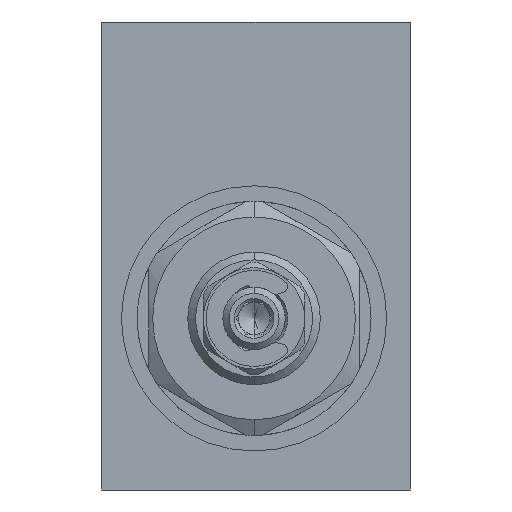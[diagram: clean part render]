
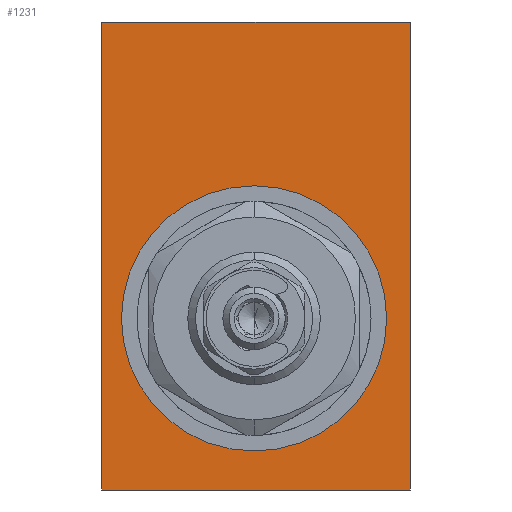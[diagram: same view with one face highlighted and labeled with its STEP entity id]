
A CAD part, left-side view. The second image highlights one B-rep face of the part: STEP entity #1231.
In plain terms, the highlighted planar face has unit normal (-1, 0, 0).
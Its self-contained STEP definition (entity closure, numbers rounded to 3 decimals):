
#294 = CIRCLE ( 'NONE', #7769, 17. ) ;
#1231 = ADVANCED_FACE ( 'NONE', ( #13580, #3365 ), #3278, .T. ) ;
#1792 = ORIENTED_EDGE ( 'NONE', *, *, #5975, .F. ) ;
#2838 = ORIENTED_EDGE ( 'NONE', *, *, #5935, .T. ) ;
#2983 = DIRECTION ( 'NONE',  ( 0., 0., 1. ) ) ;
#3007 = DIRECTION ( 'NONE',  ( -1., 0., 0. ) ) ;
#3041 = CARTESIAN_POINT ( 'NONE',  ( 0., 19.75, -30. ) ) ;
#3278 = PLANE ( 'NONE',  #5806 ) ;
#3362 = ORIENTED_EDGE ( 'NONE', *, *, #5952, .F. ) ;
#3365 = FACE_BOUND ( 'NONE', #10840, .T. ) ;
#3740 = ORIENTED_EDGE ( 'NONE', *, *, #5947, .T. ) ;
#3926 = CARTESIAN_POINT ( 'NONE',  ( 0., 19.75, -30. ) ) ;
#4625 = ORIENTED_EDGE ( 'NONE', *, *, #5978, .F. ) ;
#4785 = EDGE_CURVE ( 'NONE', #8907, #10809, #294, .T. ) ;
#4990 = ORIENTED_EDGE ( 'NONE', *, *, #4785, .F. ) ;
#5806 = AXIS2_PLACEMENT_3D ( 'NONE', #3041, #3007, #2983 ) ;
#5935 = EDGE_CURVE ( 'NONE', #7475, #7966, #9571, .T. ) ;
#5947 = EDGE_CURVE ( 'NONE', #7966, #7674, #9555, .T. ) ;
#5952 = EDGE_CURVE ( 'NONE', #12941, #7674, #10248, .T. ) ;
#5965 = CARTESIAN_POINT ( 'NONE',  ( 0., 0.25, -25. ) ) ;
#5975 = EDGE_CURVE ( 'NONE', #7475, #12941, #9383, .T. ) ;
#5978 = EDGE_CURVE ( 'NONE', #10809, #8907, #8454, .T. ) ;
#7052 = CARTESIAN_POINT ( 'NONE',  ( 0., -19.75, 30. ) ) ;
#7169 = VECTOR ( 'NONE', #9210, 1000. ) ;
#7475 = VERTEX_POINT ( 'NONE', #11911 ) ;
#7674 = VERTEX_POINT ( 'NONE', #10399 ) ;
#7769 = AXIS2_PLACEMENT_3D ( 'NONE', #8739, #8723, #8590 ) ;
#7966 = VERTEX_POINT ( 'NONE', #7052 ) ;
#8132 = EDGE_LOOP ( 'NONE', ( #2838, #3740, #3362, #1792 ) ) ;
#8454 = CIRCLE ( 'NONE', #10478, 17. ) ;
#8468 = VECTOR ( 'NONE', #9462, 1000. ) ;
#8590 = DIRECTION ( 'NONE',  ( 0., 0., 1. ) ) ;
#8723 = DIRECTION ( 'NONE',  ( -1., 0., 0. ) ) ;
#8739 = CARTESIAN_POINT ( 'NONE',  ( 0., 0.25, -8. ) ) ;
#8854 = VECTOR ( 'NONE', #9450, 1000. ) ;
#8907 = VERTEX_POINT ( 'NONE', #5965 ) ;
#9094 = DIRECTION ( 'NONE',  ( 0., 0., 1. ) ) ;
#9110 = DIRECTION ( 'NONE',  ( -1., 0., 0. ) ) ;
#9112 = CARTESIAN_POINT ( 'NONE',  ( 0., 0.25, -8. ) ) ;
#9210 = DIRECTION ( 'NONE',  ( 0., 1., 0. ) ) ;
#9283 = CARTESIAN_POINT ( 'NONE',  ( 0., -19.25, -30. ) ) ;
#9339 = DIRECTION ( 'NONE',  ( 0., 0., 1. ) ) ;
#9359 = CARTESIAN_POINT ( 'NONE',  ( 0., 19.75, -29.5 ) ) ;
#9383 = LINE ( 'NONE', #9283, #7169 ) ;
#9398 = CARTESIAN_POINT ( 'NONE',  ( 0., -19.25, 30. ) ) ;
#9450 = DIRECTION ( 'NONE',  ( 0., 1., 0. ) ) ;
#9462 = DIRECTION ( 'NONE',  ( 0., 0., 1. ) ) ;
#9555 = LINE ( 'NONE', #9398, #8854 ) ;
#9571 = LINE ( 'NONE', #9920, #8468 ) ;
#9920 = CARTESIAN_POINT ( 'NONE',  ( 0., -19.75, -29.5 ) ) ;
#10248 = LINE ( 'NONE', #9359, #14288 ) ;
#10399 = CARTESIAN_POINT ( 'NONE',  ( 0., 19.75, 30. ) ) ;
#10478 = AXIS2_PLACEMENT_3D ( 'NONE', #9112, #9110, #9094 ) ;
#10809 = VERTEX_POINT ( 'NONE', #11274 ) ;
#10840 = EDGE_LOOP ( 'NONE', ( #4625, #4990 ) ) ;
#11274 = CARTESIAN_POINT ( 'NONE',  ( 0., 0.25, 9. ) ) ;
#11911 = CARTESIAN_POINT ( 'NONE',  ( 0., -19.75, -30. ) ) ;
#12941 = VERTEX_POINT ( 'NONE', #3926 ) ;
#13580 = FACE_OUTER_BOUND ( 'NONE', #8132, .T. ) ;
#14288 = VECTOR ( 'NONE', #9339, 1000. ) ;
